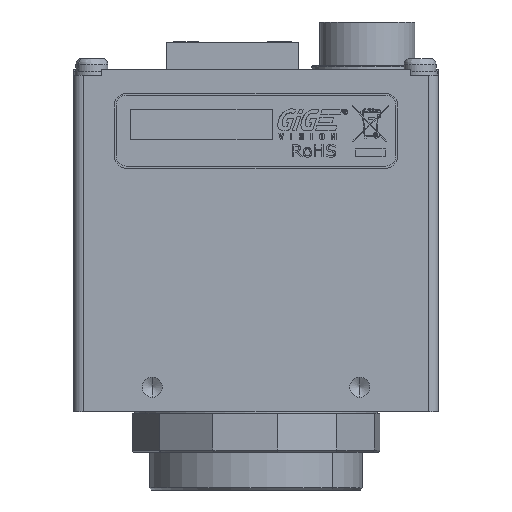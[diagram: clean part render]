
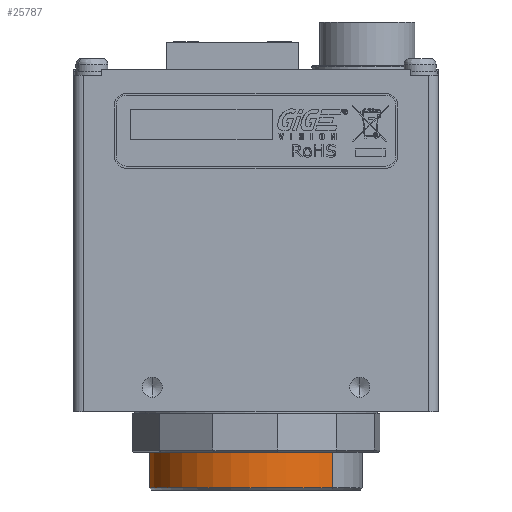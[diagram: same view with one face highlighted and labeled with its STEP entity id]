
A CAD part, front view. The second image highlights one B-rep face of the part: STEP entity #25787.
In plain terms, the highlighted cylindrical face has radius 13.335 mm (diameter 26.67 mm), a partial arc.
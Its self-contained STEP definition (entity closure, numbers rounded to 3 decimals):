
#9 = EDGE_CURVE ( 'NONE', #162354, #45157, #72118, .T. ) ;
#3011 = CARTESIAN_POINT ( 'NONE',  ( 0., 0., 13.386 ) ) ;
#10726 = CARTESIAN_POINT ( 'NONE',  ( 13.335, 0., 13.386 ) ) ;
#17010 = DIRECTION ( 'NONE',  ( 1., 0., 0. ) ) ;
#21270 = FACE_OUTER_BOUND ( 'NONE', #74057, .T. ) ;
#25787 = ADVANCED_FACE ( 'NONE', ( #21270 ), #77265, .T. ) ;
#27059 = AXIS2_PLACEMENT_3D ( 'NONE', #3011, #99407, #17010 ) ;
#35463 = VECTOR ( 'NONE', #139037, 1000. ) ;
#44373 = DIRECTION ( 'NONE',  ( 0., 0., 1. ) ) ;
#44759 = ORIENTED_EDGE ( 'NONE', *, *, #66706, .T. ) ;
#45157 = VERTEX_POINT ( 'NONE', #10726 ) ;
#46014 = LINE ( 'NONE', #126009, #149742 ) ;
#66706 = EDGE_CURVE ( 'NONE', #121190, #162354, #96989, .T. ) ;
#69224 = DIRECTION ( 'NONE',  ( 1., 0., 0. ) ) ;
#69400 = CARTESIAN_POINT ( 'NONE',  ( 0., 0., 7.214 ) ) ;
#70917 = DIRECTION ( 'NONE',  ( 0., 0., 1. ) ) ;
#72118 = LINE ( 'NONE', #138876, #35463 ) ;
#74057 = EDGE_LOOP ( 'NONE', ( #142523, #44759, #82396, #164839 ) ) ;
#77265 = CYLINDRICAL_SURFACE ( 'NONE', #112322, 13.335 ) ;
#82396 = ORIENTED_EDGE ( 'NONE', *, *, #9, .T. ) ;
#96812 = CARTESIAN_POINT ( 'NONE',  ( 13.335, 0., 7.214 ) ) ;
#96989 = CIRCLE ( 'NONE', #97757, 13.335 ) ;
#97757 = AXIS2_PLACEMENT_3D ( 'NONE', #108556, #108518, #108307 ) ;
#99407 = DIRECTION ( 'NONE',  ( 0., 0., -1. ) ) ;
#108307 = DIRECTION ( 'NONE',  ( 1., 0., 0. ) ) ;
#108518 = DIRECTION ( 'NONE',  ( 0., 0., 1. ) ) ;
#108556 = CARTESIAN_POINT ( 'NONE',  ( 0., 0., 7.214 ) ) ;
#109970 = EDGE_CURVE ( 'NONE', #45157, #137759, #125680, .T. ) ;
#112322 = AXIS2_PLACEMENT_3D ( 'NONE', #69400, #70917, #69224 ) ;
#120646 = EDGE_CURVE ( 'NONE', #121190, #137759, #46014, .T. ) ;
#121190 = VERTEX_POINT ( 'NONE', #166104 ) ;
#125680 = CIRCLE ( 'NONE', #27059, 13.335 ) ;
#126009 = CARTESIAN_POINT ( 'NONE',  ( -13.335, 0., 7.214 ) ) ;
#131536 = CARTESIAN_POINT ( 'NONE',  ( -13.335, 0., 13.386 ) ) ;
#137759 = VERTEX_POINT ( 'NONE', #131536 ) ;
#138876 = CARTESIAN_POINT ( 'NONE',  ( 13.335, 0., 7.214 ) ) ;
#139037 = DIRECTION ( 'NONE',  ( 0., 0., 1. ) ) ;
#142523 = ORIENTED_EDGE ( 'NONE', *, *, #120646, .F. ) ;
#149742 = VECTOR ( 'NONE', #44373, 1000. ) ;
#162354 = VERTEX_POINT ( 'NONE', #96812 ) ;
#164839 = ORIENTED_EDGE ( 'NONE', *, *, #109970, .T. ) ;
#166104 = CARTESIAN_POINT ( 'NONE',  ( -13.335, 0., 7.214 ) ) ;
